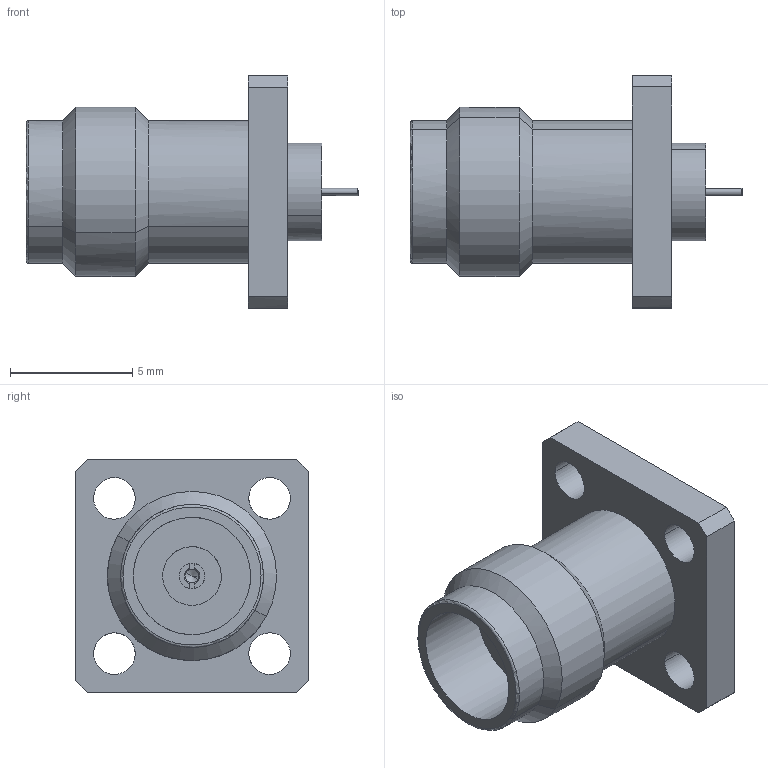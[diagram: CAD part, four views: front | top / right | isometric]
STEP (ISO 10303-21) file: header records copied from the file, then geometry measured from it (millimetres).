
FILE_DESCRIPTION(('CATIA V5 STEP Exchange'),'2;1');
FILE_NAME('F:\Work SZ\CMP 图纸\Precision Coaxial Connector\2.4mm\97-02-9F2-014\97-02-9F2-014A(REV.A).stp','2013-08-09T01:41:43+00:00',('none'),('none'),'CATIA Version 5 Release 17 (IN-10)','CATIA V5 STEP AP203','none');
FILE_SCHEMA(('CONFIG_CONTROL_DESIGN'));
Length unit declared in the file: millimetre
Products named in the file (1): 97-02-9F2-014A
Bounding box: 13.58 x 9.5 x 9.5 mm (x, y, z)
Volume: 356.9 mm3; surface area: 541.9 mm2
Topology: 1 solids, 1 shells, 65 faces, 157 edges, 99 vertices
Faces by surface type: cylinder 32, plane 20, cone 11, torus 2
Entity records: 2333 total; most frequent: CARTESIAN_POINT 896, ORIENTED_EDGE 310, DIRECTION 222, EDGE_CURVE 155, VERTEX_POINT 99, AXIS2_PLACEMENT_3D 97, EDGE_LOOP 80, VECTOR 69
